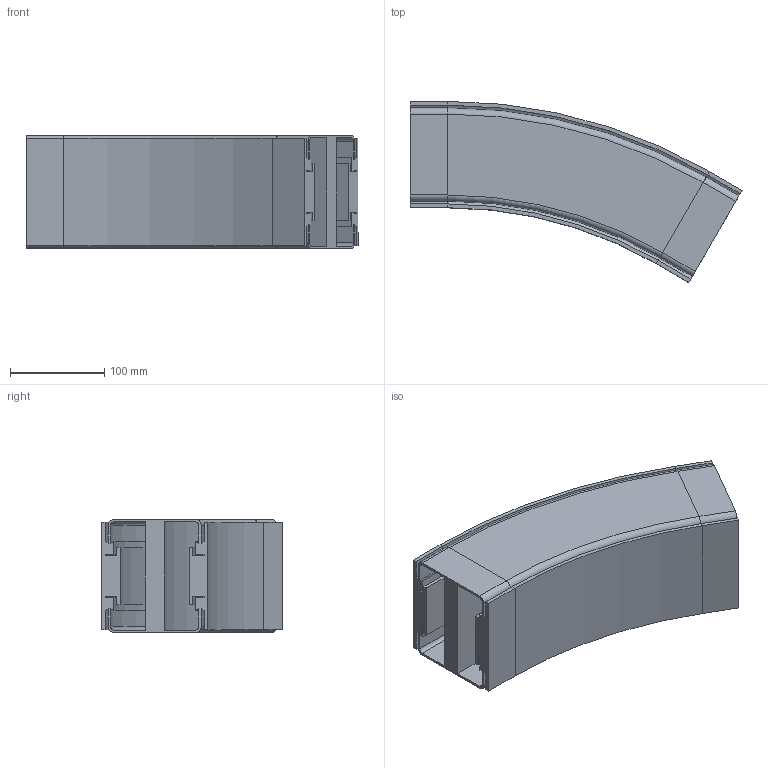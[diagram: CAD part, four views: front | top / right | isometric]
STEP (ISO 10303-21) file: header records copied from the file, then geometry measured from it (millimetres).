
FILE_DESCRIPTION (( 'STEP AP214' ), '1' );
FILE_NAME ('VC.120 Verticale bochtsectie.R500 30.STEP', '2017-02-08T08:10:17', ( '' ), ( '' ), 'SwSTEP 2.0', 'SolidWorks 2016', '' );
FILE_SCHEMA (( 'AUTOMOTIVE_DESIGN' ));
Length unit declared in the file: millimetre
Products named in the file (1): VC.120 Verticale bochtsectie.R500 30
Bounding box: 352.89 x 192.42 x 120 mm (x, y, z)
Volume: 2015293.7 mm3; surface area: 499098 mm2
Topology: 1 solids, 1 shells, 206 faces, 476 edges, 272 vertices
Faces by surface type: plane 144, cylinder 46, cone 8, torus 8
Entity records: 5674 total; most frequent: DIRECTION 990, CARTESIAN_POINT 955, ORIENTED_EDGE 952, EDGE_CURVE 476, LINE 376, VECTOR 376, AXIS2_PLACEMENT_3D 307, VERTEX_POINT 272
